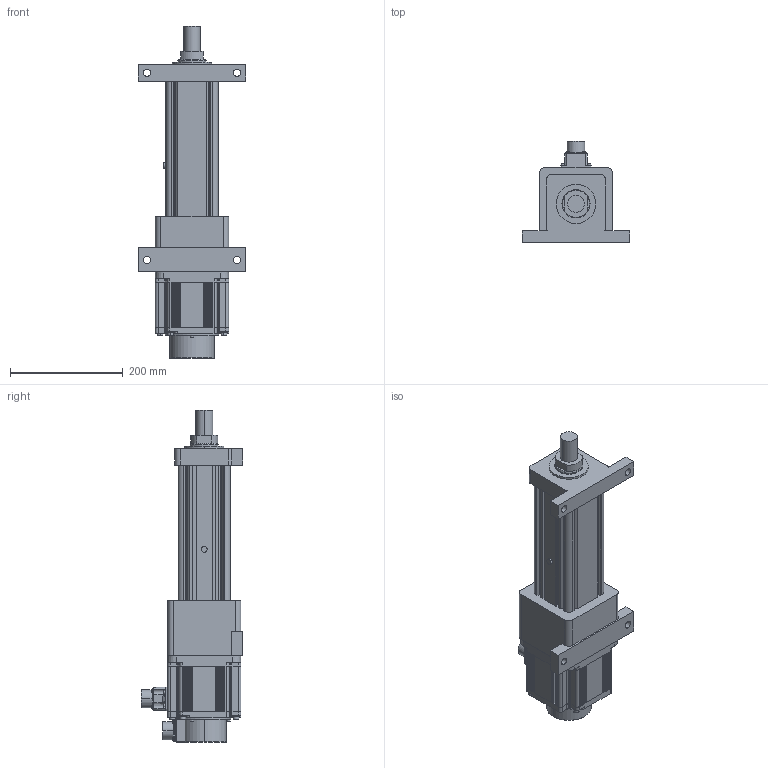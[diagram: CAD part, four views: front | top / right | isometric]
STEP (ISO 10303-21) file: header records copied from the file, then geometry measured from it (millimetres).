
FILE_DESCRIPTION (( 'STEP AP203' ), '1' );
FILE_NAME ('S4眻盄耜醱假蚾.STEP', '2024-05-27T05:28:04', ( '' ), ( '' ), 'SwSTEP 2.0', 'SolidWorks 2018', '' );
FILE_SCHEMA (( 'CONFIG_CONTROL_DESIGN' ));
Length unit declared in the file: millimetre
Products named in the file (3): ECMA-FX1308ES-130框號系列機種-0.85KW高慣量系列; S4眻盄耜醱; S4眻盄耜醱假蚾
Assembly tree (2 placements, depth 2):
  S4眻盄耜醱假蚾
    S4眻盄耜醱
    ECMA-FX1308ES-130框號系列機種-0.85KW高慣量系列
Bounding box: 190 x 179.44 x 588.5 mm (x, y, z)
Volume: 4775766.8 mm3; surface area: 539392.7 mm2
Topology: 3 solids, 15 shells, 939 faces, 2250 edges, 1398 vertices
Faces by surface type: plane 413, cylinder 357, cone 101, torus 47, sphere 20, bspline 1
Entity records: 28138 total; most frequent: CARTESIAN_POINT 5448, DIRECTION 4948, ORIENTED_EDGE 4496, EDGE_CURVE 2248, AXIS2_PLACEMENT_3D 1837, VERTEX_POINT 1398, LINE 1274, VECTOR 1274
